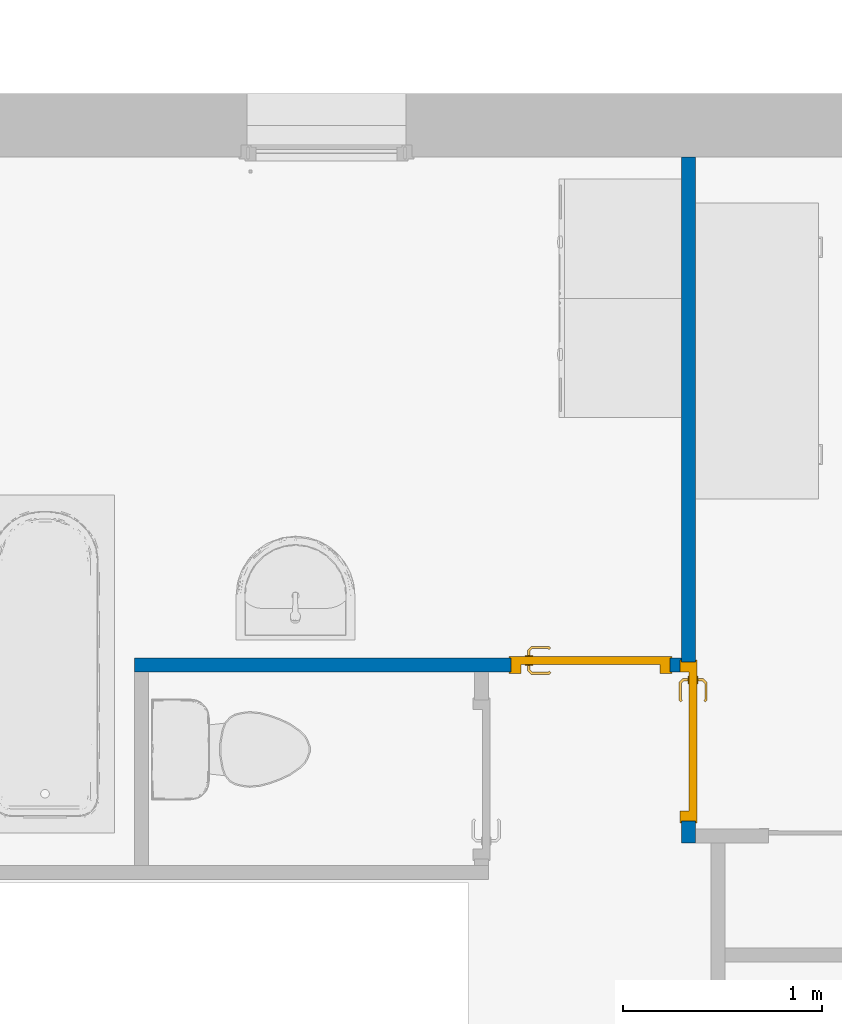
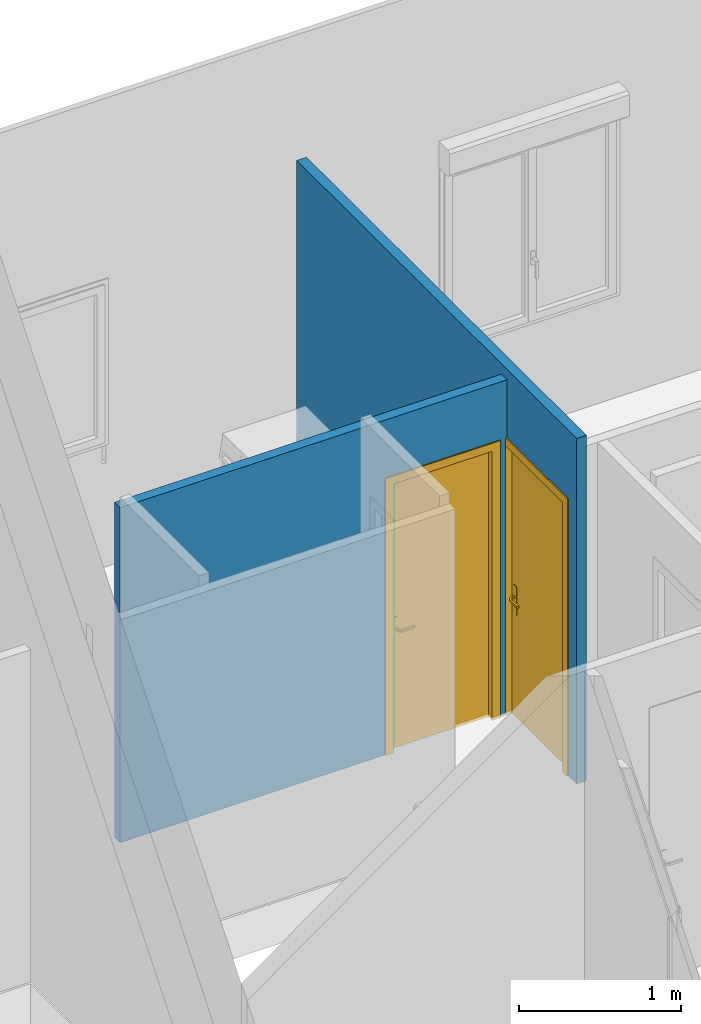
# One storey, part 21 of 61: 2 doors, 2 walls, 2 openings.
"""IFC2X3 building model written with IfcOpenShell, lengths in metres."""

from ifc_helpers import new_model, entity, si_unit, converted_unit, derived_unit, direction, frame, frame_2d, origin, place, context, subcontext, project, spatial, rectangle, extrude, faceted_brep, source, transform, mapped, material, material_list, layer, layer_set, layer_usage, type_object, type_shapes, element, fill, save


model = new_model("IFC2X3")

# Units and contexts
model_context = context("Model", 3, precision=1e-05, world=origin(), true_north=direction((6.12303176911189e-17, 1.0)))
body_context = subcontext(model_context, "Body", "Model", "MODEL_VIEW")
ifc_project = project(units=[si_unit("LENGTHUNIT", "METRE"), si_unit("AREAUNIT", "SQUARE_METRE"), si_unit("VOLUMEUNIT", "CUBIC_METRE"), converted_unit("PLANEANGLEUNIT", "DEGREE", entity("IfcRatioMeasure", 0.0174532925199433), si_unit("PLANEANGLEUNIT", "RADIAN"), dimensions=[0, 0, 0, 0, 0, 0, 0]), si_unit("MASSUNIT", "GRAM", prefix="KILO"), derived_unit("MASSDENSITYUNIT", [(si_unit("MASSUNIT", "GRAM", prefix="KILO"), 1), (si_unit("LENGTHUNIT", "METRE"), -3)]), si_unit("TIMEUNIT", "SECOND"), si_unit("FREQUENCYUNIT", "HERTZ"), si_unit("THERMODYNAMICTEMPERATUREUNIT", "DEGREE_CELSIUS"), derived_unit("THERMALTRANSMITTANCEUNIT", [(si_unit("MASSUNIT", "GRAM", prefix="KILO"), 1), (si_unit("THERMODYNAMICTEMPERATUREUNIT", "KELVIN"), -1), (si_unit("TIMEUNIT", "SECOND"), -3)]), derived_unit("VOLUMETRICFLOWRATEUNIT", [(si_unit("LENGTHUNIT", "METRE"), 3), (si_unit("TIMEUNIT", "SECOND"), -1)]), si_unit("ELECTRICCURRENTUNIT", "AMPERE"), si_unit("ELECTRICVOLTAGEUNIT", "VOLT"), si_unit("POWERUNIT", "WATT"), si_unit("FORCEUNIT", "NEWTON", prefix="KILO"), si_unit("ILLUMINANCEUNIT", "LUX"), si_unit("LUMINOUSFLUXUNIT", "LUMEN"), si_unit("LUMINOUSINTENSITYUNIT", "CANDELA"), derived_unit("USERDEFINED", [(si_unit("MASSUNIT", "GRAM", prefix="KILO"), -1), (si_unit("LENGTHUNIT", "METRE"), -2), (si_unit("TIMEUNIT", "SECOND"), 3), (si_unit("LUMINOUSFLUXUNIT", "LUMEN"), 1)]), derived_unit("LINEARVELOCITYUNIT", [(si_unit("LENGTHUNIT", "METRE"), 1), (si_unit("TIMEUNIT", "SECOND"), -1)]), si_unit("PRESSUREUNIT", "PASCAL"), derived_unit("USERDEFINED", [(si_unit("LENGTHUNIT", "METRE"), -2), (si_unit("MASSUNIT", "GRAM", prefix="KILO"), 1), (si_unit("TIMEUNIT", "SECOND"), -2)])], contexts=[model_context])

# Site, building, storey
site_placement = place(None, origin())
site = spatial("IfcSite", under=ifc_project, at=site_placement, Name="Surface", CompositionType="ELEMENT")
building_placement = place(site_placement, origin())
building = spatial("IfcBuilding", under=site, at=building_placement, CompositionType="ELEMENT")
storey_placement = place(building_placement, frame((0.0, 0.0, 2.82)))
storey = spatial("IfcBuildingStorey", under=building, at=storey_placement, Name="ETAGE", CompositionType="ELEMENT", Elevation=2.82)

# Wall, opening, door
ifc_material_1 = material(Name="Peinture - Blanc")
ifc_layer = layer(ifc_material_1, 0.07)
ifc_layer_set = layer_set([ifc_layer], Name="Mur de base:Int.  Platre 70 mm en blanc")
ifc_layer_usage_1 = layer_usage(ifc_layer_set, "AXIS2", "NEGATIVE", 0.035)
wall_type = type_object("IfcWallType", Name="Mur de base:Int.  Platre 70 mm en blanc", PredefinedType="STANDARD", material=ifc_layer_set)
wall_1_placement = place(storey_placement, frame((72.6417429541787, 88.1077566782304, 0.0), z_axis=(0.0, 0.0, 1.0), x_axis=(0.0, -1.0, 0.0)))
wall_1 = element("IfcWallStandardCase", 1, at=wall_1_placement, inside=storey, type_object=wall_type, material=ifc_layer_usage_1, Name="Mur de base:Int.  Platre 70 mm en blanc", ObjectType="Mur de base:Int.  Platre 70 mm en blanc", context=body_context, shape_type="SweptSolid", body=[
    extrude(rectangle(XDim=3.45000000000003, YDim=0.0700000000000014, at=frame_2d((1.72500000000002, 0.0), x_axis=(-1.0, 0.0))), origin(), (0.0, 0.0, 1.0), 2.6),
])
opening_1_placement = place(wall_1_placement, frame((2.54000000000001, -0.035, 0.0)))
opening_1 = element("IfcOpeningElement", 2, at=opening_1_placement, cuts=wall_1, Name="FR_Simple (R):73 x 204 - (70):1", ObjectType="Opening", context=body_context, shape_type="SweptSolid", body=[
    extrude(rectangle(XDim=2.075, YDim=0.799999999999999, at=frame_2d((1.0375, 0.4), x_axis=(1.0, 0.0))), frame((0.0, 0.0, 0.0), z_axis=(0.0, 1.0, 0.0), x_axis=(0.0, 0.0, 1.0)), (0.0, 0.0, 1.0), 0.07),
])
ifc_material_2 = material(Name="Poignée Porte")
ifc_material_3 = material(Name="Dormants Portes")
ifc_material_4 = material(Name="Panneaux Portes")
ifc_material_list_1 = material_list([ifc_material_2, ifc_material_3, ifc_material_4])
ifc_material_list_2 = material_list([ifc_material_2, ifc_material_3, ifc_material_4])
door_style = type_object("IfcDoorStyle", Name="73 x 204 - (70)", ConstructionType="NOTDEFINED", OperationType="SINGLE_SWING_RIGHT", ParameterTakesPrecedence=False, Sizeable=False, material=ifc_material_list_2)
shared_shape = source(origin(), body_context, "Body", "Brep", [
    faceted_brep([(0.710000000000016, -0.0130000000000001, 0.764641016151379), (0.720352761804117, -0.0130000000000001, 0.766003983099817), (0.730000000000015, -0.0130000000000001, 0.770000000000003), (0.730000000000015, -0.0130000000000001, 0.980000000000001), (0.720352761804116, -0.0130000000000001, 0.983996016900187), (0.710000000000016, -0.0130000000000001, 0.985358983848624), (0.699647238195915, -0.0130000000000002, 0.983996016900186), (0.690000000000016, -0.0130000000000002, 0.980000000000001), (0.690000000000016, -0.0130000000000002, 0.770000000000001), (0.699647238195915, -0.0130000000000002, 0.766003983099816), (0.730000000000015, -0.00800000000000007, 0.980000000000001), (0.730000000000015, -0.00800000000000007, 0.770000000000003), (0.720352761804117, -0.0080000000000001, 0.766003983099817), (0.710000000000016, -0.00800000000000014, 0.764641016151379), (0.699647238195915, -0.00800000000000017, 0.766003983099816), (0.690000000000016, -0.00800000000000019, 0.770000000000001), (0.690000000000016, -0.00800000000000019, 0.980000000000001), (0.699647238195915, -0.00800000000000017, 0.983996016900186), (0.710000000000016, -0.00800000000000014, 0.985358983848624), (0.720352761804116, -0.0080000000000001, 0.983996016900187)], [[[0, 1, 2, 3, 4, 5, 6, 7, 8, 9]], [[10, 11, 12, 13, 14, 15, 16, 17, 18, 19]], [[1, 12, 11, 2]], [[0, 13, 12, 1]], [[9, 14, 13, 0]], [[9, 8, 15, 14]], [[15, 8, 7, 16]], [[6, 17, 16, 7]], [[5, 18, 17, 6]], [[4, 19, 18, 5]], [[4, 3, 10, 19]], [[10, 3, 2, 11]]]),
    faceted_brep([(0.730000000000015, 0.0319999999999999, 0.770000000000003), (0.730000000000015, 0.0319999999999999, 0.980000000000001), (0.720352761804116, 0.0319999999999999, 0.983996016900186), (0.710000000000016, 0.0319999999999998, 0.985358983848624), (0.699647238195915, 0.0319999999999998, 0.983996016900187), (0.690000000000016, 0.0319999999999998, 0.980000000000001), (0.690000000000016, 0.0319999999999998, 0.770000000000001), (0.699647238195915, 0.0319999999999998, 0.766003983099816), (0.710000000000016, 0.0319999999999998, 0.764641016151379), (0.720352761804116, 0.0319999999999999, 0.766003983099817), (0.710000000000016, 0.0369999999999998, 0.985358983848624), (0.720352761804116, 0.0369999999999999, 0.983996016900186), (0.730000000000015, 0.0369999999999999, 0.980000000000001), (0.730000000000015, 0.0369999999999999, 0.770000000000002), (0.720352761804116, 0.0369999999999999, 0.766003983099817), (0.710000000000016, 0.0369999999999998, 0.764641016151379), (0.699647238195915, 0.0369999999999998, 0.766003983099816), (0.690000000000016, 0.0369999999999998, 0.770000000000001), (0.690000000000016, 0.0369999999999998, 0.980000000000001), (0.699647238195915, 0.0369999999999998, 0.983996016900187)], [[[0, 1, 2, 3, 4, 5, 6, 7, 8, 9]], [[10, 11, 12, 13, 14, 15, 16, 17, 18, 19]], [[4, 19, 18, 5]], [[3, 10, 19, 4]], [[2, 11, 10, 3]], [[2, 1, 12, 11]], [[12, 1, 0, 13]], [[9, 14, 13, 0]], [[8, 15, 14, 9]], [[7, 16, 15, 8]], [[7, 6, 17, 16]], [[17, 6, 5, 18]]]),
    faceted_brep([(0.707974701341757, -0.0130000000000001, 0.907780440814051), (0.712025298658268, -0.0130000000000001, 0.907780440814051), (0.716000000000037, -0.0130000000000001, 0.906999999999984), (0.716000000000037, -0.0130000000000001, 0.892999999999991), (0.712025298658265, -0.0130000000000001, 0.892219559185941), (0.707974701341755, -0.0130000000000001, 0.89221955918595), (0.703999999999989, -0.0130000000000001, 0.893000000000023), (0.703999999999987, -0.0130000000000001, 0.90699999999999), (0.712025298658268, -0.0390045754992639, 0.907780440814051), (0.716000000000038, -0.0406509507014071, 0.906999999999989), (0.707974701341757, -0.0373267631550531, 0.907780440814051), (0.694298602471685, -0.0510028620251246, 0.907780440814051), (0.695976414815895, -0.0550534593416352, 0.907780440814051), (0.609142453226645, -0.0550534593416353, 0.90778044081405), (0.610820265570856, -0.0510028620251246, 0.90778044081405), (0.604342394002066, -0.0445249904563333, 0.90778044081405), (0.601478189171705, -0.0473891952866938, 0.90778044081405), (0.703999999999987, -0.0356803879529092, 0.90699999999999), (0.703999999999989, -0.0356803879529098, 0.893000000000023), (0.707974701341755, -0.0373267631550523, 0.89221955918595), (0.712025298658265, -0.0390045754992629, 0.89221955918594), (0.695976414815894, -0.0550534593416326, 0.89221955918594), (0.694298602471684, -0.0510028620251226, 0.89221955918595), (0.610820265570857, -0.0510028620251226, 0.89221955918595), (0.609142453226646, -0.0550534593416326, 0.89221955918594), (0.601478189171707, -0.0473891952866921, 0.89221955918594), (0.604342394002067, -0.044524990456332, 0.89221955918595), (0.716000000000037, -0.0406509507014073, 0.892999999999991), (0.69762279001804, -0.059028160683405, 0.906999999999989), (0.692652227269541, -0.0470281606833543, 0.90699999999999), (0.692652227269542, -0.0470281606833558, 0.893000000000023), (0.697622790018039, -0.0590281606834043, 0.892999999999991), (0.65255943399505, -0.053182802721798, 0.907878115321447), (0.657692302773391, -0.0590281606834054, 0.906999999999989), (0.607496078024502, -0.0590281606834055, 0.906999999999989), (0.652559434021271, -0.0470281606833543, 0.90699999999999), (0.612466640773, -0.0470281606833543, 0.906999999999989), (0.652559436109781, -0.0470281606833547, 0.893000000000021), (0.612466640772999, -0.0470281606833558, 0.893000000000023), (0.652559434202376, -0.0531828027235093, 0.892121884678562), (0.647426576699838, -0.0590281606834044, 0.892999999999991), (0.607496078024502, -0.0590281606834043, 0.892999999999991), (0.607152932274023, -0.0417144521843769, 0.89300000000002), (0.598667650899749, -0.0501997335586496, 0.892999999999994), (0.598667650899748, -0.0501997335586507, 0.906999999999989), (0.607152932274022, -0.0417144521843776, 0.906999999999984)], [[[0, 1, 2, 3, 4, 5, 6, 7]], [[2, 1, 8, 9]], [[1, 0, 10, 11, 12, 8]], [[13, 14, 15, 16]], [[0, 7, 17, 10]], [[18, 17, 7, 6]], [[5, 19, 18, 6]], [[5, 4, 20, 21, 22, 19]], [[23, 24, 25, 26]], [[3, 27, 20, 4]], [[9, 27, 3, 2]], [[9, 8, 12, 28]], [[10, 17, 29, 11]], [[30, 29, 17, 18]], [[18, 19, 22, 30]], [[20, 27, 31, 21]], [[28, 31, 27, 9]], [[12, 32, 33]], [[13, 33, 32]], [[33, 28, 12]], [[33, 13, 34]], [[11, 35, 32]], [[32, 12, 11]], [[32, 35, 14]], [[35, 11, 29]], [[36, 14, 35]], [[13, 32, 14]], [[30, 37, 38, 36, 35, 29]], [[39, 37, 22]], [[40, 41, 24]], [[40, 21, 31]], [[39, 21, 40]], [[23, 37, 39]], [[39, 24, 23]], [[30, 22, 37]], [[37, 23, 38]], [[21, 39, 22]], [[24, 39, 40]], [[31, 28, 33, 34, 41, 40]], [[42, 26, 25, 43, 44, 16, 15, 45]], [[13, 16, 44, 34]], [[36, 45, 15, 14]], [[42, 45, 36, 38]], [[38, 23, 26, 42]], [[24, 41, 43, 25]], [[44, 43, 41, 34]]]),
    faceted_brep([(0.712025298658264, 0.0369999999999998, 0.907780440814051), (0.707974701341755, 0.0369999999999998, 0.907780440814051), (0.703999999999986, 0.0369999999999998, 0.90699999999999), (0.703999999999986, 0.0369999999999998, 0.89300000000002), (0.707974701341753, 0.0369999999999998, 0.892219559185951), (0.712025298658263, 0.0369999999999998, 0.892219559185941), (0.716000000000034, 0.0369999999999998, 0.892999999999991), (0.716000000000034, 0.0369999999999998, 0.90699999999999), (0.703999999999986, 0.0594852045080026, 0.90699999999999), (0.703999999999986, 0.0594852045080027, 0.89300000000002), (0.707974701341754, 0.0611315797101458, 0.907780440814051), (0.712025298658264, 0.0628093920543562, 0.907780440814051), (0.695838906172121, 0.0789957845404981, 0.907780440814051), (0.69416109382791, 0.0749451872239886, 0.907780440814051), (0.610793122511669, 0.0749451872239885, 0.907780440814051), (0.609115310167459, 0.0789957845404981, 0.907780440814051), (0.601451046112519, 0.071331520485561, 0.907780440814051), (0.604315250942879, 0.0684673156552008, 0.907780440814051), (0.716000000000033, 0.0644557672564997, 0.90699999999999), (0.716000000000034, 0.0644557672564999, 0.892999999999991), (0.712025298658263, 0.0628093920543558, 0.892219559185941), (0.707974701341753, 0.0611315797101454, 0.892219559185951), (0.69416109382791, 0.0749451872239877, 0.892219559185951), (0.69583890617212, 0.0789957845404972, 0.892219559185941), (0.609115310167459, 0.0789957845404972, 0.89221955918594), (0.610793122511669, 0.0749451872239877, 0.89221955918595), (0.60431525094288, 0.0684673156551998, 0.89221955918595), (0.60145104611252, 0.07133152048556, 0.89221955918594), (0.692514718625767, 0.07097048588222, 0.89300000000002), (0.692514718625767, 0.0709704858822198, 0.90699999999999), (0.697485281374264, 0.0829704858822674, 0.90699999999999), (0.697485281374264, 0.082970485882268, 0.892999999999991), (0.652477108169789, 0.0709704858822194, 0.90699999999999), (0.612439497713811, 0.0709704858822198, 0.90699999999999), (0.612439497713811, 0.0709704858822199, 0.89300000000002), (0.652477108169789, 0.0709704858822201, 0.89300000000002), (0.652477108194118, 0.0771249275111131, 0.907878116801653), (0.647399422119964, 0.0829704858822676, 0.90699999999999), (0.607468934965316, 0.0829704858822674, 0.90699999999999), (0.657554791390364, 0.0829704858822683, 0.892999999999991), (0.607468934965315, 0.082970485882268, 0.892999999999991), (0.65247710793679, 0.0771249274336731, 0.892121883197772), (0.598640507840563, 0.0741420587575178, 0.90699999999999), (0.598640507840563, 0.074142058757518, 0.892999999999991), (0.607125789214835, 0.0656567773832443, 0.89300000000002), (0.607125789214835, 0.0656567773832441, 0.90699999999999)], [[[0, 1, 2, 3, 4, 5, 6, 7]], [[8, 9, 3, 2]], [[1, 10, 8, 2]], [[1, 0, 11, 12, 13, 10]], [[14, 15, 16, 17]], [[7, 18, 11, 0]], [[18, 7, 6, 19]], [[6, 5, 20, 19]], [[5, 4, 21, 22, 23, 20]], [[24, 25, 26, 27]], [[4, 3, 9, 21]], [[28, 9, 8, 29]], [[8, 10, 13, 29]], [[18, 30, 12, 11]], [[31, 30, 18, 19]], [[19, 20, 23, 31]], [[21, 9, 28, 22]], [[28, 29, 32, 33, 34, 35]], [[36, 32, 13]], [[37, 38, 15]], [[37, 12, 30]], [[36, 12, 37]], [[14, 32, 36]], [[36, 15, 14]], [[29, 13, 32]], [[32, 14, 33]], [[12, 36, 13]], [[15, 36, 37]], [[30, 31, 39, 40, 38, 37]], [[23, 41, 39]], [[24, 39, 41]], [[39, 31, 23]], [[39, 24, 40]], [[22, 35, 41]], [[41, 23, 22]], [[41, 35, 25]], [[35, 22, 28]], [[34, 25, 35]], [[24, 41, 25]], [[17, 16, 42, 43, 27, 26, 44, 45]], [[44, 34, 33, 45]], [[33, 14, 17, 45]], [[15, 38, 42, 16]], [[42, 38, 40, 43]], [[24, 27, 43, 40]], [[34, 44, 26, 25]]]),
    faceted_brep([(0.800000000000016, 0.0, 0.0), (0.810000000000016, 0.0, 0.0), (0.810000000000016, -0.00799999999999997, 0.0), (0.765000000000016, -0.00799999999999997, 0.0), (0.765000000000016, 0.032, 0.0), (0.750000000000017, 0.032, 0.0), (0.750000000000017, 0.0780000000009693, 0.0), (0.810000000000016, 0.0780000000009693, 0.0), (0.810000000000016, 0.0700000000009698, 0.0), (0.800000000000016, 0.0700000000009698, 0.0), (0.800000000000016, 0.0700000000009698, 2.075), (0.800000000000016, 0.0, 2.075), (0.810000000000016, 0.0700000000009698, 2.085), (-0.00999999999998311, 0.0700000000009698, 2.085), (-0.00999999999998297, 0.0700000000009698, 0.0), (0.0, 0.0700000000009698, 0.0), (0.0, 0.0700000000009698, 2.075), (0.810000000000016, 0.0780000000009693, 2.085), (0.750000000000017, 0.0780000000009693, 2.025), (0.0500000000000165, 0.0780000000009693, 2.025), (0.0500000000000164, 0.0780000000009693, 0.0), (-0.00999999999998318, 0.0780000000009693, 0.0), (-0.00999999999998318, 0.0780000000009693, 2.085), (0.750000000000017, 0.032, 2.025), (0.765000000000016, 0.032, 2.04), (0.0350000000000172, 0.032, 2.04), (0.0350000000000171, 0.032, 0.0), (0.0500000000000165, 0.032, 0.0), (0.0500000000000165, 0.032, 2.025), (0.765000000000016, -0.00799999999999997, 2.04), (0.810000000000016, -0.00799999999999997, 2.085), (-0.00999999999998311, -0.00799999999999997, 2.085), (-0.0099999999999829, -0.00799999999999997, 0.0), (0.0350000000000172, -0.00799999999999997, 0.0), (0.0350000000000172, -0.00799999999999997, 2.04), (0.810000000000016, 0.0, 2.085), (0.0, 0.0, 2.075), (0.0, 0.0, 0.0), (-0.00999999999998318, 0.0, 0.0), (-0.00999999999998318, 0.0, 2.085)], [[[0, 1, 2, 3, 4, 5, 6, 7, 8, 9]], [[9, 10, 11, 0]], [[8, 12, 13, 14, 15, 16, 10, 9]], [[7, 17, 12, 8]], [[6, 18, 19, 20, 21, 22, 17, 7]], [[5, 23, 18, 6]], [[4, 24, 25, 26, 27, 28, 23, 5]], [[3, 29, 24, 4]], [[2, 30, 31, 32, 33, 34, 29, 3]], [[1, 35, 30, 2]], [[0, 11, 36, 37, 38, 39, 35, 1]], [[10, 16, 36, 11]], [[17, 22, 13, 12]], [[23, 28, 19, 18]], [[29, 34, 25, 24]], [[35, 39, 31, 30]], [[37, 15, 14, 21, 20, 27, 26, 33, 32, 38]], [[16, 15, 37, 36]], [[22, 21, 14, 13]], [[28, 27, 20, 19]], [[34, 33, 26, 25]], [[39, 38, 32, 31]]]),
    faceted_brep([(0.765000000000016, -0.00799999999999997, 2.04), (0.0350000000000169, -0.00799999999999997, 2.04), (0.0350000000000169, -0.00799999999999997, 0.0), (0.765000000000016, -0.00799999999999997, 0.0), (0.765000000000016, 0.032, 2.04), (0.765000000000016, 0.032, 0.0), (0.0350000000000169, 0.032, 0.0), (0.0350000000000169, 0.032, 2.04)], [[[0, 1, 2, 3]], [[4, 5, 6, 7]], [[3, 5, 4, 0]], [[2, 6, 5, 3]], [[1, 7, 6, 2]], [[0, 4, 7, 1]]]),
])
type_shapes(door_style, [shared_shape])
door_1_placement = place(opening_1_placement, frame((0.80000000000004, 0.0699999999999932, 0.0), z_axis=(0.0, 0.0, 1.0), x_axis=(-1.0, 0.0, 0.0)))
door_1 = element("IfcDoor", 3, at=door_1_placement, inside=storey, type_object=door_style, material=ifc_material_list_1, Name="FR_Simple (R):73 x 204 - (70)", ObjectType="FR_Simple (R):73 x 204 - (70)", OverallHeight=2.075, OverallWidth=0.800000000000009, context=body_context, shape_type="MappedRepresentation", body=[
    mapped(shared_shape, transform((0.0, 0.0, 0.0), scale=1.0)),
])
fill(opening_1, door_1)

ifc_layer_usage_2 = layer_usage(ifc_layer_set, "AXIS2", "NEGATIVE", 0.035)
wall_2_placement = place(storey_placement, frame((69.8546263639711, 85.5527566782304, 0.0)))
wall_2 = element("IfcWallStandardCase", 4, at=wall_2_placement, inside=storey, type_object=wall_type, material=ifc_layer_usage_2, Name="Mur de base:Int.  Platre 70 mm en blanc", ObjectType="Mur de base:Int.  Platre 70 mm en blanc", context=body_context, shape_type="SweptSolid", body=[
    extrude(rectangle(XDim=2.75211659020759, YDim=0.0699999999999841, at=frame_2d((1.37605829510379, -2.04697370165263e-15), x_axis=(-1.0, 0.0))), origin(), (0.0, 0.0, 1.0), 2.52),
])
opening_2_placement = place(wall_2_placement, frame((1.8935582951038, -0.034999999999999, 0.0)))
opening_2 = element("IfcOpeningElement", 5, at=opening_2_placement, cuts=wall_2, Name="FR_Simple (R):73 x 204 - (70):1", ObjectType="Opening", context=body_context, shape_type="SweptSolid", body=[
    extrude(rectangle(XDim=2.075, YDim=0.799999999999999, at=frame_2d((1.0375, 0.4), x_axis=(1.0, 0.0))), frame((0.0, 0.0, 0.0), z_axis=(0.0, 1.0, 0.0), x_axis=(0.0, 0.0, 1.0)), (0.0, 0.0, 1.0), 0.07),
])
ifc_material_list_3 = material_list([ifc_material_2, ifc_material_3, ifc_material_4])
door_2_placement = place(opening_2_placement, frame((0.799999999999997, 0.0699999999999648, 0.0), z_axis=(0.0, 0.0, 1.0), x_axis=(-1.0, 0.0, 0.0)))
door_2 = element("IfcDoor", 6, at=door_2_placement, inside=storey, type_object=door_style, material=ifc_material_list_3, Name="FR_Simple (R):73 x 204 - (70)", ObjectType="FR_Simple (R):73 x 204 - (70)", OverallHeight=2.075, OverallWidth=0.8, context=body_context, shape_type="MappedRepresentation", body=[
    mapped(shared_shape, transform((0.0, 0.0, 0.0), scale=1.0)),
])
fill(opening_2, door_2)

save(model, "model.ifc")
